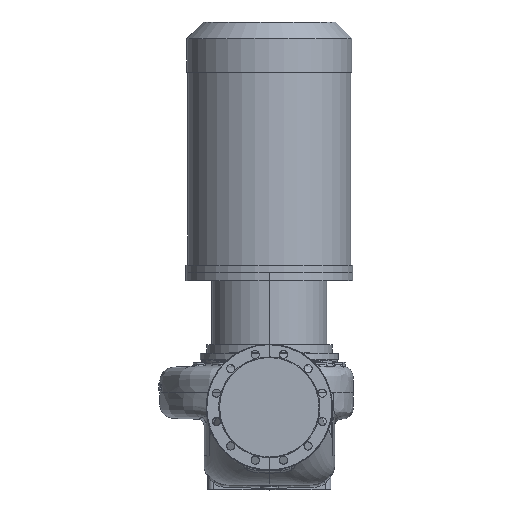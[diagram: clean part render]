
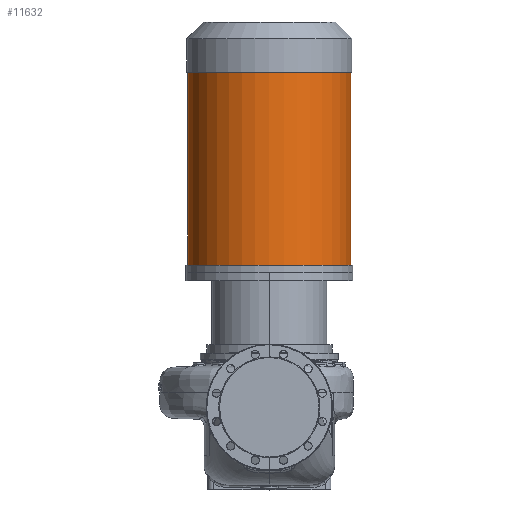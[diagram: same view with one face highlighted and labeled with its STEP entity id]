
A CAD part, top view. The second image highlights one B-rep face of the part: STEP entity #11632.
In plain terms, the highlighted cylindrical face has radius 219.5 mm (diameter 439 mm), a partial arc.
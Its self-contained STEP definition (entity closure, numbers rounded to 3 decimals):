
#203 = ORIENTED_EDGE ( 'NONE', *, *, #51995, .T. ) ;
#4420 = CARTESIAN_POINT ( 'NONE',  ( 0., 903.8, 0. ) ) ;
#5250 = ORIENTED_EDGE ( 'NONE', *, *, #19193, .F. ) ;
#6058 = EDGE_CURVE ( 'NONE', #46206, #80413, #62801, .T. ) ;
#6133 = DIRECTION ( 'NONE',  ( 0., -1., 0. ) ) ;
#7001 = DIRECTION ( 'NONE',  ( -1., 0., 0. ) ) ;
#11632 = ADVANCED_FACE ( 'NONE', ( #77324 ), #26531, .T. ) ;
#19193 = EDGE_CURVE ( 'NONE', #46206, #61405, #49318, .T. ) ;
#19343 = CARTESIAN_POINT ( 'NONE',  ( -219.5, 363.8, 0. ) ) ;
#21788 = VERTEX_POINT ( 'NONE', #25539 ) ;
#23076 = CARTESIAN_POINT ( 'NONE',  ( 219.5, 363.8, 0. ) ) ;
#25539 = CARTESIAN_POINT ( 'NONE',  ( -219.5, 383.8, 0. ) ) ;
#26531 = CYLINDRICAL_SURFACE ( 'NONE', #32421, 219.5 ) ;
#29890 = CARTESIAN_POINT ( 'NONE',  ( 219.5, 383.8, 0. ) ) ;
#30336 = DIRECTION ( 'NONE',  ( -1., 0., 0. ) ) ;
#32421 = AXIS2_PLACEMENT_3D ( 'NONE', #67944, #74225, #7001 ) ;
#35071 = DIRECTION ( 'NONE',  ( -1., 0., 0. ) ) ;
#40422 = EDGE_LOOP ( 'NONE', ( #5250, #47954, #203, #78749 ) ) ;
#41826 = DIRECTION ( 'NONE',  ( 0., -1., 0. ) ) ;
#42572 = CIRCLE ( 'NONE', #61899, 219.5 ) ;
#46206 = VERTEX_POINT ( 'NONE', #62999 ) ;
#47954 = ORIENTED_EDGE ( 'NONE', *, *, #6058, .T. ) ;
#49198 = AXIS2_PLACEMENT_3D ( 'NONE', #4420, #53939, #35071 ) ;
#49318 = LINE ( 'NONE', #23076, #53285 ) ;
#51995 = EDGE_CURVE ( 'NONE', #80413, #21788, #80654, .T. ) ;
#53117 = CARTESIAN_POINT ( 'NONE',  ( -219.5, 903.8, 0. ) ) ;
#53285 = VECTOR ( 'NONE', #72974, 1000. ) ;
#53423 = VECTOR ( 'NONE', #6133, 1000. ) ;
#53939 = DIRECTION ( 'NONE',  ( 0., -1., 0. ) ) ;
#61405 = VERTEX_POINT ( 'NONE', #29890 ) ;
#61899 = AXIS2_PLACEMENT_3D ( 'NONE', #67706, #41826, #30336 ) ;
#62801 = CIRCLE ( 'NONE', #49198, 219.5 ) ;
#62999 = CARTESIAN_POINT ( 'NONE',  ( 219.5, 903.8, 0. ) ) ;
#66789 = EDGE_CURVE ( 'NONE', #61405, #21788, #42572, .T. ) ;
#67706 = CARTESIAN_POINT ( 'NONE',  ( 0., 383.8, 0. ) ) ;
#67944 = CARTESIAN_POINT ( 'NONE',  ( 0., 363.8, 0. ) ) ;
#72974 = DIRECTION ( 'NONE',  ( 0., -1., 0. ) ) ;
#74225 = DIRECTION ( 'NONE',  ( 0., -1., 0. ) ) ;
#77324 = FACE_OUTER_BOUND ( 'NONE', #40422, .T. ) ;
#78749 = ORIENTED_EDGE ( 'NONE', *, *, #66789, .F. ) ;
#80413 = VERTEX_POINT ( 'NONE', #53117 ) ;
#80654 = LINE ( 'NONE', #19343, #53423 ) ;
